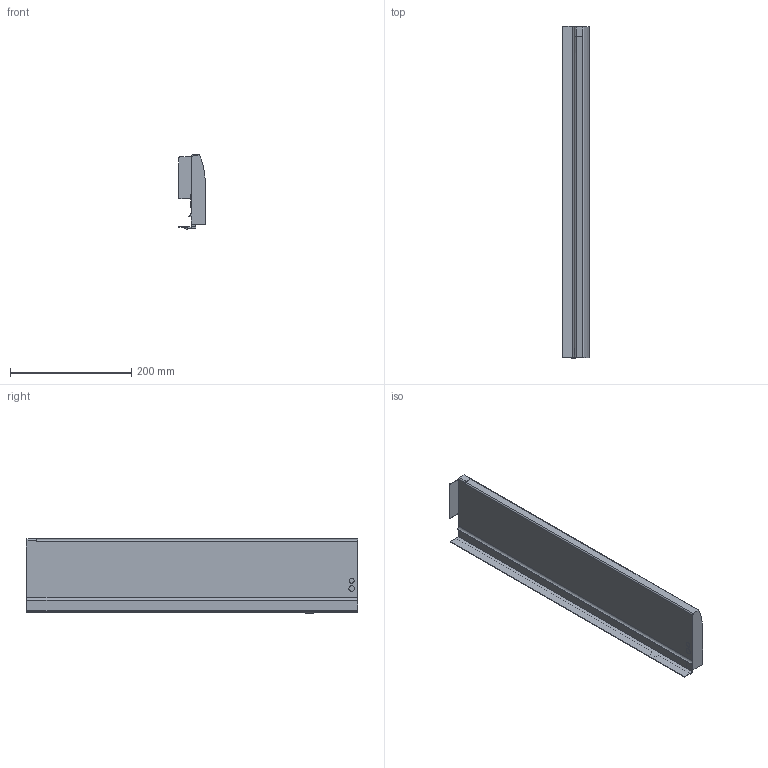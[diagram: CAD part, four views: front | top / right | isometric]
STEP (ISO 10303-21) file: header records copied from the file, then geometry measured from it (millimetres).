
FILE_DESCRIPTION (( 'STEP AP214' ), '1' );
FILE_NAME ('_IMOS_NOVA-Pro_Dekor-H122_DL_NL550_RE.step', '2010-07-14T11:02:04', ( 'grass' ), ( '' ), 'SwSTEP 2.0', 'SolidWorks 2010', '' );
FILE_SCHEMA (( 'AUTOMOTIVE_DESIGN' ));
Length unit declared in the file: millimetre
Products named in the file (1): _IMOS_NOVA-Pro_Dekor-H122_DL_NL550_RE
Bounding box: 44.3 x 548.45 x 122.49 mm (x, y, z)
Volume: 1009487.3 mm3; surface area: 224348.9 mm2
Topology: 1 solids, 1 shells, 72 faces, 201 edges, 134 vertices
Faces by surface type: plane 49, cylinder 22, bspline 1
Entity records: 2349 total; most frequent: CARTESIAN_POINT 421, ORIENTED_EDGE 402, DIRECTION 390, EDGE_CURVE 201, LINE 152, VECTOR 152, VERTEX_POINT 134, AXIS2_PLACEMENT_3D 119
